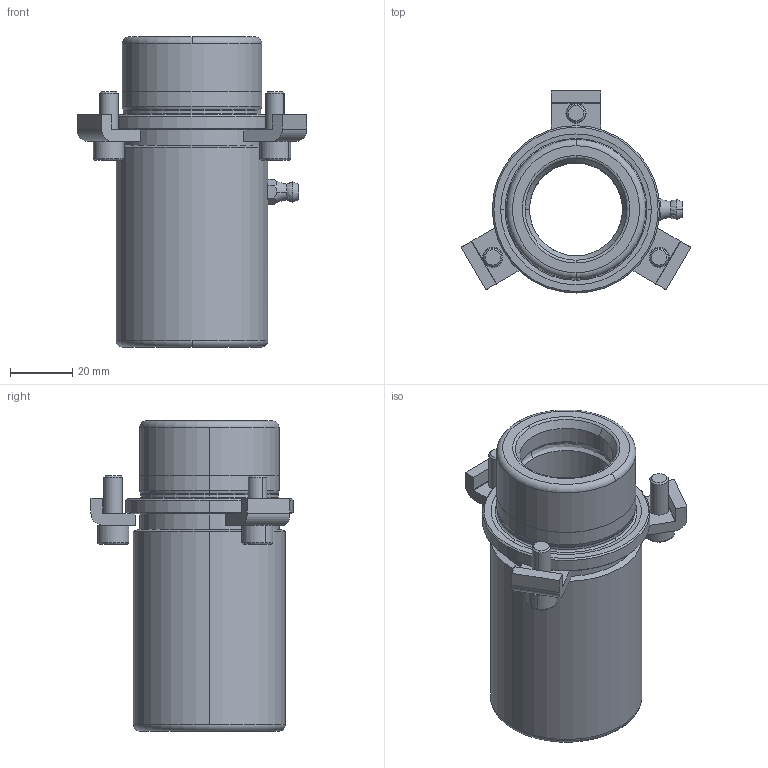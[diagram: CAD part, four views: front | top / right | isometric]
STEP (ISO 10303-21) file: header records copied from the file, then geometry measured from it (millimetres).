
FILE_DESCRIPTION((''),'2;1');
FILE_NAME('B10_030_075.stp','2008-11-06T08:37:38',(''),(''),'Mechanical Desktop 2009','Mechanical Desktop 2009',', , ');
FILE_SCHEMA(('CONFIG_CONTROL_DESIGN'));
Length unit declared in the file: millimetre
Products named in the file (2): Product; blmdl1
Assembly tree (1 placements, depth 2):
  Product
    blmdl1
Bounding box: 74.11 x 65.2 x 100 mm (x, y, z)
Volume: 115035.7 mm3; surface area: 32933.8 mm2
Topology: 8 solids, 8 shells, 170 faces, 445 edges, 292 vertices
Faces by surface type: plane 68, cylinder 48, cone 22, bspline 16, torus 16
Entity records: 6504 total; most frequent: CARTESIAN_POINT 2130, DIRECTION 939, ORIENTED_EDGE 882, EDGE_CURVE 441, AXIS2_PLACEMENT_3D 371, VERTEX_POINT 290, CIRCLE 215, VECTOR 197
